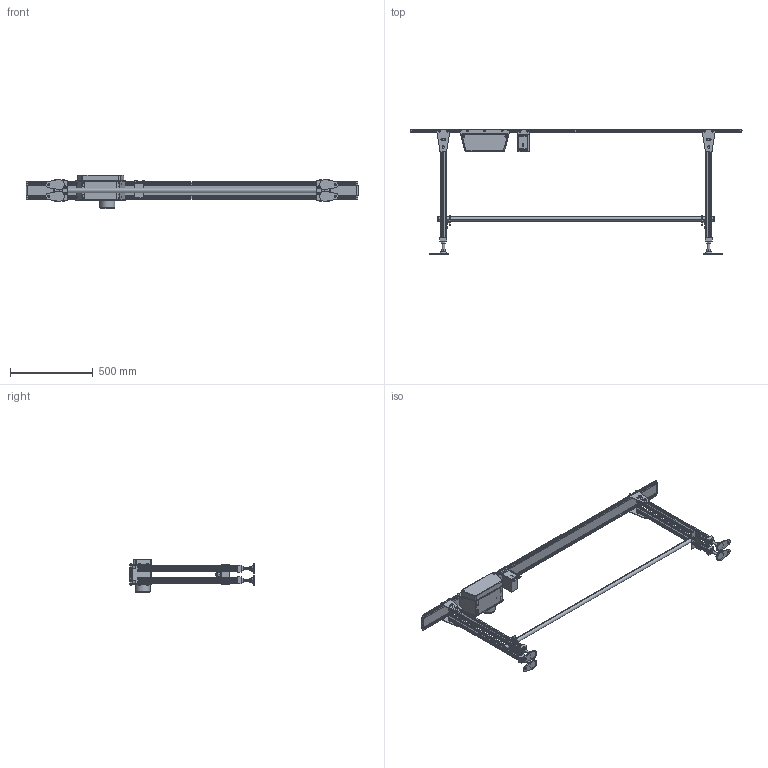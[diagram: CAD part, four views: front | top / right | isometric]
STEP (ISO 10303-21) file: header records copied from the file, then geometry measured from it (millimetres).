
FILE_DESCRIPTION( (''), '2;1');
FILE_NAME ('WEB-MMX0-304-75-200-K-180-O.stp','2025-02-20T11:22:52',(''),(''),'spGate 20.6.2 (****-****-****-****)','','');
FILE_SCHEMA (('AUTOMOTIVE_DESIGN'));
Length unit declared in the file: millimetre
Products named in the file (50): NewModel; TEMP_X_T-prt0; TEMP_X_T-prt1; TEMP_X_T-prt2; TEMP_X_T-prt3; TEMP_X_T-prt4; TEMP_X_T-prt5; TEMP_X_T-prt6; TEMP_X_T-prt7; TEMP_X_T-prt8; TEMP_X_T-prt9; TEMP_X_T-prt10; TEMP_X_T-prt11; TEMP_X_T-prt12; TEMP_X_T-prt13; TEMP_X_T-prt14; TEMP_X_T-prt15; TEMP_X_T-prt16; TEMP_X_T-prt17; TEMP_X_T-prt18; TEMP_X_T-prt19; TEMP_X_T-prt20; TEMP_X_T-prt21; TEMP_X_T-prt22; TEMP_X_T-prt23; TEMP_X_T-prt24; TEMP_X_T-prt25; TEMP_X_T-prt26; TEMP_X_T-prt27; TEMP_X_T-prt28; TEMP_X_T-prt29; TEMP_X_T-prt30; TEMP_X_T-prt31; TEMP_X_T-prt32; TEMP_X_T-prt33; TEMP_X_T-prt34; TEMP_X_T-prt35; TEMP_X_T-prt36; TEMP_X_T-prt37; TEMP_X_T-prt38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
Assembly tree (49 placements, depth 2):
  NewModel
    TEMP_X_T-prt0
    TEMP_X_T-prt1
    TEMP_X_T-prt2
    TEMP_X_T-prt3
    TEMP_X_T-prt4
    TEMP_X_T-prt5
    TEMP_X_T-prt6
    TEMP_X_T-prt7
    TEMP_X_T-prt8
    TEMP_X_T-prt9
    TEMP_X_T-prt10
    TEMP_X_T-prt11
    TEMP_X_T-prt12
    TEMP_X_T-prt13
    TEMP_X_T-prt14
    TEMP_X_T-prt15
    TEMP_X_T-prt16
    TEMP_X_T-prt17
    TEMP_X_T-prt18
    TEMP_X_T-prt19
    TEMP_X_T-prt20
    TEMP_X_T-prt21
    TEMP_X_T-prt22
    TEMP_X_T-prt23
    TEMP_X_T-prt24
    TEMP_X_T-prt25
    TEMP_X_T-prt26
    TEMP_X_T-prt27
    TEMP_X_T-prt28
    TEMP_X_T-prt29
    TEMP_X_T-prt30
    TEMP_X_T-prt31
    TEMP_X_T-prt32
    TEMP_X_T-prt33
    TEMP_X_T-prt34
    TEMP_X_T-prt35
    TEMP_X_T-prt36
    TEMP_X_T-prt37
    TEMP_X_T-prt38
    TEMP_X_T-prt39
    TEMP_X_T-prt40
    TEMP_X_T-prt41
    TEMP_X_T-prt42
    TEMP_X_T-prt43
    TEMP_X_T-prt44
    TEMP_X_T-prt45
    TEMP_X_T-prt46
    TEMP_X_T-prt47
    TEMP_X_T-prt48
Bounding box: 2002.4 x 752.2 x 204.5 mm (x, y, z)
Volume: 7373427.9 mm3; surface area: 2491615.3 mm2
Topology: 49 solids, 49 shells, 2107 faces, 5233 edges, 3281 vertices
Faces by surface type: plane 1373, cylinder 459, bspline 275
Entity records: 107762 total; most frequent: CARTESIAN_POINT 15459, ORIENTED_EDGE 10394, DIRECTION 9751, COLOUR_RGB 7353, PRESENTATION_STYLE_ASSIGNMENT 7353, STYLED_ITEM 7353, EDGE_CURVE 5197, DRAUGHTING_PRE_DEFINED_CURVE_FONT 5197
